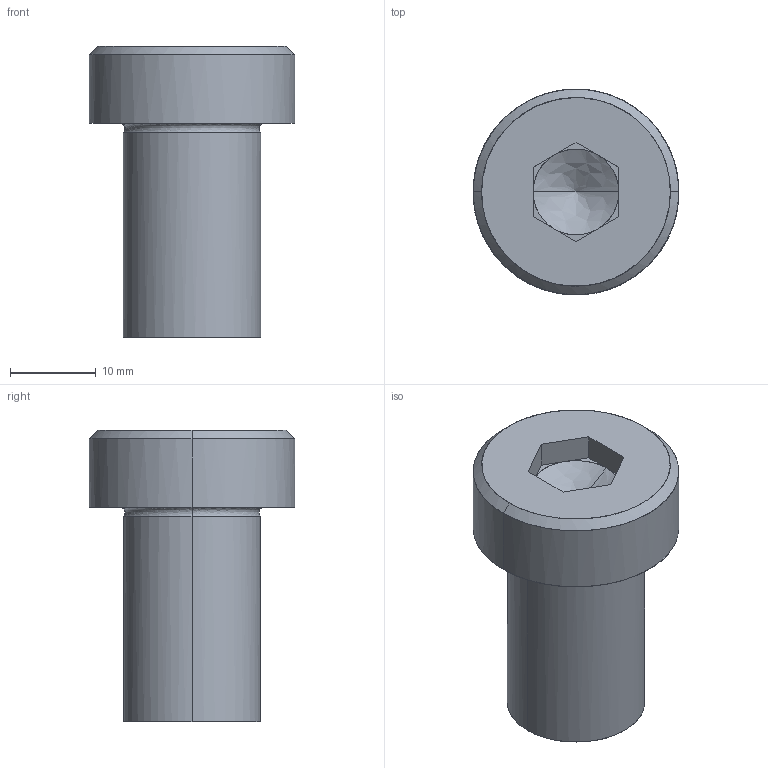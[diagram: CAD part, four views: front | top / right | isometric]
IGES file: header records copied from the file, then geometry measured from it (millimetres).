
Global section: file name: E:\UnigraphicsGraphicData\MISUMI_PRESS-PARTS\IGES\3d_sbtcn16-25_05153_r00.igs; native system: NX V5.0; preprocessor: UGS NX IGES V5.0; author: MISUMI; date: 20110105.162455; units: millimetre
Bounding box: 24 x 24 x 34 mm (x, y, z)
Surface area: 3603.1 mm2 (no closed solid volume)
Topology: 0 solids, 0 shells, 34 faces, 186 edges, 182 vertices
Faces by surface type: bspline 34
